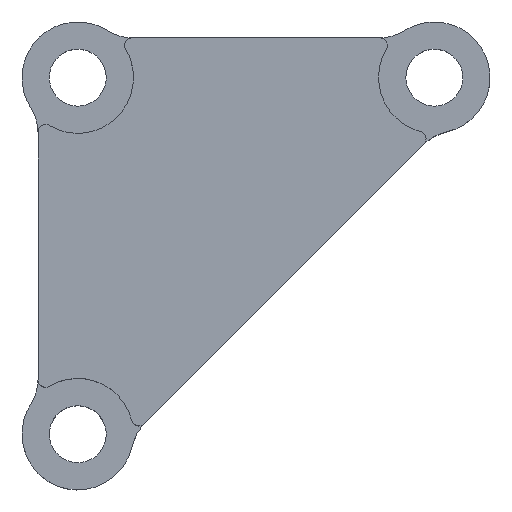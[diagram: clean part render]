
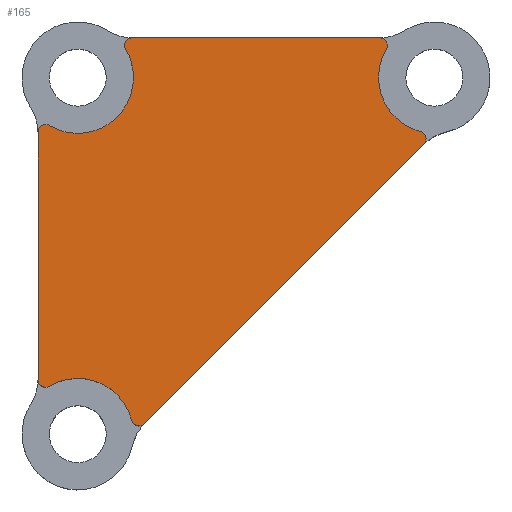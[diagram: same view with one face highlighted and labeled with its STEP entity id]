
A CAD part, top view. The second image highlights one B-rep face of the part: STEP entity #165.
In plain terms, the highlighted planar face has unit normal (0, 0, 1).
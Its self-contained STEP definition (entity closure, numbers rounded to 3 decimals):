
#23 = DIRECTION ( 'NONE',  ( 1., 0., 0. ) ) ;
#40 = EDGE_LOOP ( 'NONE', ( #94, #823, #620, #728, #199, #352, #696, #750, #455, #210, #1220, #223, #315, #1166, #98 ) ) ;
#54 = AXIS2_PLACEMENT_3D ( 'NONE', #845, #656, #825 ) ;
#56 = CARTESIAN_POINT ( 'NONE',  ( -1.6, -12.206, 4. ) ) ;
#57 = CARTESIAN_POINT ( 'NONE',  ( 14.4, 0., 4. ) ) ;
#66 = EDGE_CURVE ( 'NONE', #994, #1077, #946, .T. ) ;
#67 = CARTESIAN_POINT ( 'NONE',  ( -1.3, -2.194, 4. ) ) ;
#81 = DIRECTION ( 'NONE',  ( 1., 0., 0. ) ) ;
#83 = EDGE_CURVE ( 'NONE', #511, #497, #257, .T. ) ;
#87 = CARTESIAN_POINT ( 'NONE',  ( 2.194, 1.3, 4. ) ) ;
#94 = ORIENTED_EDGE ( 'NONE', *, *, #846, .T. ) ;
#98 = ORIENTED_EDGE ( 'NONE', *, *, #1270, .T. ) ;
#100 = DIRECTION ( 'NONE',  ( 1., 0., 0. ) ) ;
#101 = VERTEX_POINT ( 'NONE', #272 ) ;
#120 = EDGE_CURVE ( 'NONE', #1133, #497, #757, .T. ) ;
#143 = CARTESIAN_POINT ( 'NONE',  ( 1.582, 1.6, 4. ) ) ;
#159 = EDGE_CURVE ( 'NONE', #1161, #833, #1085, .T. ) ;
#161 = LINE ( 'NONE', #143, #399 ) ;
#165 = ADVANCED_FACE ( 'NONE', ( #296 ), #698, .T. ) ;
#189 = DIRECTION ( 'NONE',  ( 1., 0., 0. ) ) ;
#191 = VERTEX_POINT ( 'NONE', #370 ) ;
#199 = ORIENTED_EDGE ( 'NONE', *, *, #448, .T. ) ;
#210 = ORIENTED_EDGE ( 'NONE', *, *, #854, .T. ) ;
#211 = CARTESIAN_POINT ( 'NONE',  ( -1.147, -1.936, 4. ) ) ;
#223 = ORIENTED_EDGE ( 'NONE', *, *, #120, .T. ) ;
#230 = CARTESIAN_POINT ( 'NONE',  ( 2.194, 1.6, 4. ) ) ;
#257 = CIRCLE ( 'NONE', #1207, 2.25 ) ;
#260 = CARTESIAN_POINT ( 'NONE',  ( 12.206, 1.6, 4. ) ) ;
#267 = DIRECTION ( 'NONE',  ( 0., 0., 1. ) ) ;
#269 = EDGE_CURVE ( 'NONE', #994, #1040, #1154, .T. ) ;
#272 = CARTESIAN_POINT ( 'NONE',  ( 13.98, -2.683, 4. ) ) ;
#296 = FACE_OUTER_BOUND ( 'NONE', #40, .T. ) ;
#303 = DIRECTION ( 'NONE',  ( 0., 0., 1. ) ) ;
#309 = DIRECTION ( 'NONE',  ( 1., 0., 0. ) ) ;
#311 = AXIS2_PLACEMENT_3D ( 'NONE', #1180, #1185, #595 ) ;
#313 = CIRCLE ( 'NONE', #860, 0.3 ) ;
#314 = CIRCLE ( 'NONE', #691, 2.25 ) ;
#315 = ORIENTED_EDGE ( 'NONE', *, *, #83, .F. ) ;
#323 = VECTOR ( 'NONE', #952, 1000. ) ;
#351 = DIRECTION ( 'NONE',  ( 0., 0., 1. ) ) ;
#352 = ORIENTED_EDGE ( 'NONE', *, *, #1172, .T. ) ;
#356 = AXIS2_PLACEMENT_3D ( 'NONE', #764, #267, #665 ) ;
#359 = AXIS2_PLACEMENT_3D ( 'NONE', #915, #410, #23 ) ;
#369 = CARTESIAN_POINT ( 'NONE',  ( 12.464, 1.147, 4. ) ) ;
#370 = CARTESIAN_POINT ( 'NONE',  ( 12.506, 1.3, 4. ) ) ;
#371 = CARTESIAN_POINT ( 'NONE',  ( -1.147, -12.464, 4. ) ) ;
#399 = VECTOR ( 'NONE', #452, 1000. ) ;
#406 = EDGE_CURVE ( 'NONE', #101, #1133, #313, .T. ) ;
#409 = VERTEX_POINT ( 'NONE', #56 ) ;
#410 = DIRECTION ( 'NONE',  ( 0., 0., 1. ) ) ;
#430 = CARTESIAN_POINT ( 'NONE',  ( 0., 0., 4. ) ) ;
#444 = CARTESIAN_POINT ( 'NONE',  ( -1.6, -2.194, 4. ) ) ;
#448 = EDGE_CURVE ( 'NONE', #1100, #876, #981, .T. ) ;
#452 = DIRECTION ( 'NONE',  ( -1., 0., 0. ) ) ;
#454 = DIRECTION ( 'NONE',  ( 0., 0., 1. ) ) ;
#455 = ORIENTED_EDGE ( 'NONE', *, *, #66, .T. ) ;
#496 = CARTESIAN_POINT ( 'NONE',  ( 2.683, -13.98, 4. ) ) ;
#497 = VERTEX_POINT ( 'NONE', #1279 ) ;
#500 = DIRECTION ( 'NONE',  ( 0., 0., 1. ) ) ;
#511 = VERTEX_POINT ( 'NONE', #369 ) ;
#538 = CARTESIAN_POINT ( 'NONE',  ( -1.6, -1.582, 4. ) ) ;
#569 = VECTOR ( 'NONE', #848, 1000. ) ;
#575 = EDGE_CURVE ( 'NONE', #1033, #833, #733, .T. ) ;
#595 = DIRECTION ( 'NONE',  ( 1., 0., 0. ) ) ;
#615 = CIRCLE ( 'NONE', #54, 0.3 ) ;
#620 = ORIENTED_EDGE ( 'NONE', *, *, #575, .F. ) ;
#621 = CARTESIAN_POINT ( 'NONE',  ( -1.3, -12.206, 4. ) ) ;
#624 = CARTESIAN_POINT ( 'NONE',  ( 14.068, -2.47, 4. ) ) ;
#638 = CARTESIAN_POINT ( 'NONE',  ( 1.936, 1.147, 4. ) ) ;
#648 = AXIS2_PLACEMENT_3D ( 'NONE', #87, #1280, #81 ) ;
#656 = DIRECTION ( 'NONE',  ( 0., 0., 1. ) ) ;
#665 = DIRECTION ( 'NONE',  ( 1., 0., 0. ) ) ;
#691 = AXIS2_PLACEMENT_3D ( 'NONE', #430, #1101, #1093 ) ;
#696 = ORIENTED_EDGE ( 'NONE', *, *, #721, .T. ) ;
#698 = PLANE ( 'NONE',  #1050 ) ;
#701 = EDGE_CURVE ( 'NONE', #511, #191, #983, .T. ) ;
#721 = EDGE_CURVE ( 'NONE', #409, #1040, #1027, .T. ) ;
#728 = ORIENTED_EDGE ( 'NONE', *, *, #765, .F. ) ;
#733 = CIRCLE ( 'NONE', #1231, 2.25 ) ;
#750 = ORIENTED_EDGE ( 'NONE', *, *, #269, .F. ) ;
#757 = CIRCLE ( 'NONE', #311, 0.3 ) ;
#761 = CARTESIAN_POINT ( 'NONE',  ( 2.25, 0., 4. ) ) ;
#764 = CARTESIAN_POINT ( 'NONE',  ( 2.47, -13.768, 4. ) ) ;
#765 = EDGE_CURVE ( 'NONE', #1100, #1033, #314, .T. ) ;
#786 = DIRECTION ( 'NONE',  ( 1., 0., 0. ) ) ;
#802 = VERTEX_POINT ( 'NONE', #260 ) ;
#821 = DIRECTION ( 'NONE',  ( 1., 0., 0. ) ) ;
#823 = ORIENTED_EDGE ( 'NONE', *, *, #159, .T. ) ;
#825 = DIRECTION ( 'NONE',  ( 1., 0., 0. ) ) ;
#833 = VERTEX_POINT ( 'NONE', #638 ) ;
#842 = DIRECTION ( 'NONE',  ( 0., 0., 1. ) ) ;
#845 = CARTESIAN_POINT ( 'NONE',  ( 12.206, 1.3, 4. ) ) ;
#846 = EDGE_CURVE ( 'NONE', #802, #1161, #161, .T. ) ;
#848 = DIRECTION ( 'NONE',  ( 0.707, 0.707, 0. ) ) ;
#851 = LINE ( 'NONE', #538, #323 ) ;
#854 = EDGE_CURVE ( 'NONE', #1077, #101, #862, .T. ) ;
#860 = AXIS2_PLACEMENT_3D ( 'NONE', #1258, #842, #940 ) ;
#862 = LINE ( 'NONE', #1127, #569 ) ;
#876 = VERTEX_POINT ( 'NONE', #444 ) ;
#879 = CARTESIAN_POINT ( 'NONE',  ( 2.18, -13.842, 4. ) ) ;
#888 = DIRECTION ( 'NONE',  ( 0., 0., 1. ) ) ;
#896 = CARTESIAN_POINT ( 'NONE',  ( 0., 0., 4. ) ) ;
#915 = CARTESIAN_POINT ( 'NONE',  ( 12.206, 1.3, 4. ) ) ;
#940 = DIRECTION ( 'NONE',  ( 1., 0., 0. ) ) ;
#946 = CIRCLE ( 'NONE', #356, 0.3 ) ;
#952 = DIRECTION ( 'NONE',  ( 0., -1., 0. ) ) ;
#981 = CIRCLE ( 'NONE', #1151, 0.3 ) ;
#983 = CIRCLE ( 'NONE', #359, 0.3 ) ;
#994 = VERTEX_POINT ( 'NONE', #879 ) ;
#1027 = CIRCLE ( 'NONE', #1153, 0.3 ) ;
#1033 = VERTEX_POINT ( 'NONE', #761 ) ;
#1040 = VERTEX_POINT ( 'NONE', #371 ) ;
#1050 = AXIS2_PLACEMENT_3D ( 'NONE', #896, #500, #189 ) ;
#1077 = VERTEX_POINT ( 'NONE', #496 ) ;
#1080 = CARTESIAN_POINT ( 'NONE',  ( 0., 0., 4. ) ) ;
#1085 = CIRCLE ( 'NONE', #648, 0.3 ) ;
#1093 = DIRECTION ( 'NONE',  ( 1., 0., 0. ) ) ;
#1100 = VERTEX_POINT ( 'NONE', #211 ) ;
#1101 = DIRECTION ( 'NONE',  ( 0., 0., 1. ) ) ;
#1102 = DIRECTION ( 'NONE',  ( 0., 0., 1. ) ) ;
#1108 = AXIS2_PLACEMENT_3D ( 'NONE', #1109, #1102, #309 ) ;
#1109 = CARTESIAN_POINT ( 'NONE',  ( 0., -14.4, 4. ) ) ;
#1127 = CARTESIAN_POINT ( 'NONE',  ( 2.25, -14.413, 4. ) ) ;
#1133 = VERTEX_POINT ( 'NONE', #624 ) ;
#1151 = AXIS2_PLACEMENT_3D ( 'NONE', #67, #351, #1164 ) ;
#1153 = AXIS2_PLACEMENT_3D ( 'NONE', #621, #303, #821 ) ;
#1154 = CIRCLE ( 'NONE', #1108, 2.25 ) ;
#1161 = VERTEX_POINT ( 'NONE', #230 ) ;
#1164 = DIRECTION ( 'NONE',  ( 1., 0., 0. ) ) ;
#1166 = ORIENTED_EDGE ( 'NONE', *, *, #701, .T. ) ;
#1172 = EDGE_CURVE ( 'NONE', #876, #409, #851, .T. ) ;
#1180 = CARTESIAN_POINT ( 'NONE',  ( 13.768, -2.47, 4. ) ) ;
#1185 = DIRECTION ( 'NONE',  ( 0., 0., 1. ) ) ;
#1207 = AXIS2_PLACEMENT_3D ( 'NONE', #57, #454, #100 ) ;
#1220 = ORIENTED_EDGE ( 'NONE', *, *, #406, .T. ) ;
#1231 = AXIS2_PLACEMENT_3D ( 'NONE', #1080, #888, #786 ) ;
#1258 = CARTESIAN_POINT ( 'NONE',  ( 13.768, -2.47, 4. ) ) ;
#1270 = EDGE_CURVE ( 'NONE', #191, #802, #615, .T. ) ;
#1279 = CARTESIAN_POINT ( 'NONE',  ( 13.842, -2.18, 4. ) ) ;
#1280 = DIRECTION ( 'NONE',  ( 0., 0., 1. ) ) ;
